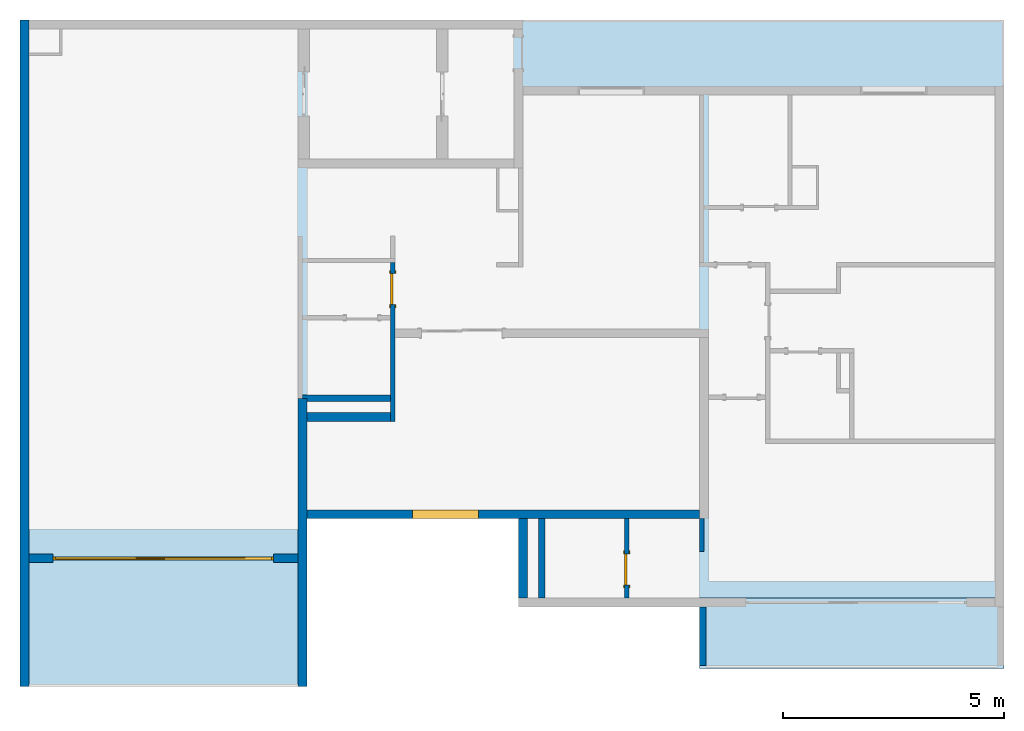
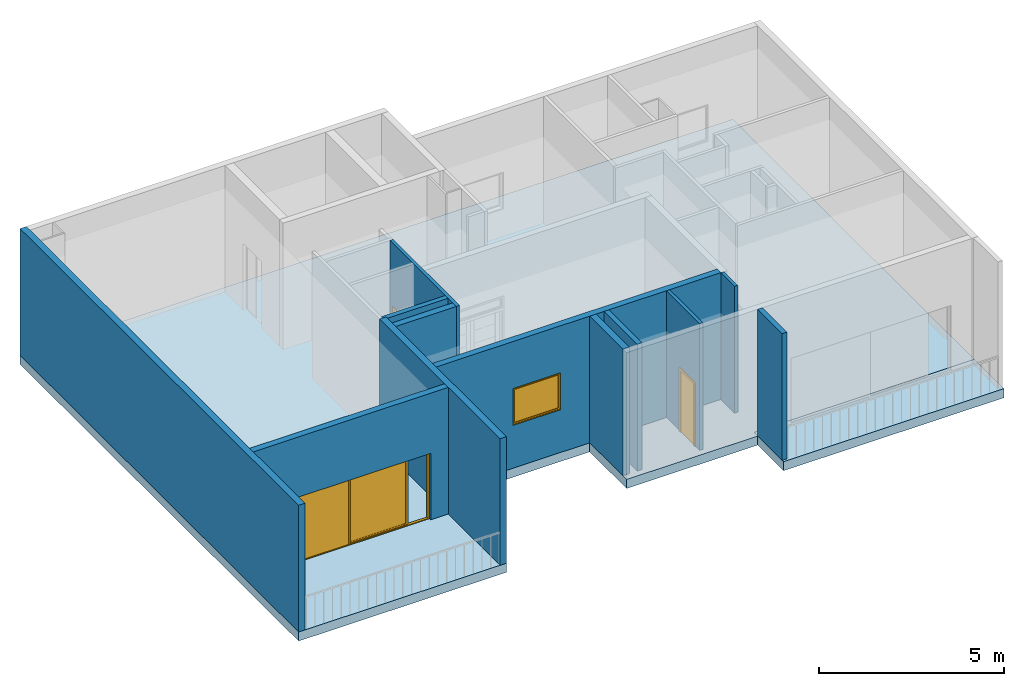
# One storey, part 1 of 7: 12 walls, 3 doors, 2 slabs, 1 window, 4 openings.
"""IFC2X3 building model written with IfcOpenShell, lengths in metres."""

from ifc_helpers import new_model, entity, si_unit, converted_unit, derived_unit, direction, frame, frame_2d, origin, origin_2d_with_axis, place, context, subcontext, project, spatial, polyline, rectangle, outline, extrude, faceted_brep, source, transform, mapped, material, material_list, layer, layer_set, layer_usage, type_object, type_shapes, element, fill, save


model = new_model("IFC2X3")

# Units and contexts
model_context = context("Model", 3, precision=1e-05, world=origin(), true_north=direction((6.123031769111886e-17, 1.0)))
body_context = subcontext(model_context, "Body", "Model", "MODEL_VIEW")
ifc_project = project(units=[si_unit("LENGTHUNIT", "METRE"), si_unit("AREAUNIT", "SQUARE_METRE"), si_unit("VOLUMEUNIT", "CUBIC_METRE"), converted_unit("PLANEANGLEUNIT", "DEGREE", entity("IfcRatioMeasure", 0.017453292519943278), si_unit("PLANEANGLEUNIT", "RADIAN"), dimensions=[0, 0, 0, 0, 0, 0, 0]), si_unit("MASSUNIT", "GRAM", prefix="KILO"), derived_unit("MASSDENSITYUNIT", [(si_unit("MASSUNIT", "GRAM", prefix="KILO"), 1), (si_unit("LENGTHUNIT", "METRE"), -3)]), derived_unit("MOMENTOFINERTIAUNIT", [(si_unit("LENGTHUNIT", "METRE"), 4)]), si_unit("TIMEUNIT", "SECOND"), si_unit("FREQUENCYUNIT", "HERTZ"), si_unit("THERMODYNAMICTEMPERATUREUNIT", "DEGREE_CELSIUS"), derived_unit("THERMALTRANSMITTANCEUNIT", [(si_unit("MASSUNIT", "GRAM", prefix="KILO"), 1), (si_unit("THERMODYNAMICTEMPERATUREUNIT", "KELVIN"), -1), (si_unit("TIMEUNIT", "SECOND"), -3)]), derived_unit("VOLUMETRICFLOWRATEUNIT", [(si_unit("LENGTHUNIT", "METRE"), 3), (si_unit("TIMEUNIT", "SECOND"), -1)]), derived_unit("MASSFLOWRATEUNIT", [(si_unit("MASSUNIT", "GRAM", prefix="KILO"), 1), (si_unit("TIMEUNIT", "SECOND"), -1)]), derived_unit("ROTATIONALFREQUENCYUNIT", [(si_unit("TIMEUNIT", "SECOND"), -1)]), si_unit("ELECTRICCURRENTUNIT", "AMPERE"), si_unit("ELECTRICVOLTAGEUNIT", "VOLT"), si_unit("POWERUNIT", "WATT"), si_unit("FORCEUNIT", "NEWTON", prefix="KILO"), si_unit("ILLUMINANCEUNIT", "LUX"), si_unit("LUMINOUSFLUXUNIT", "LUMEN"), si_unit("LUMINOUSINTENSITYUNIT", "CANDELA"), derived_unit("USERDEFINED", [(si_unit("MASSUNIT", "GRAM", prefix="KILO"), -1), (si_unit("LENGTHUNIT", "METRE"), -2), (si_unit("TIMEUNIT", "SECOND"), 3), (si_unit("LUMINOUSFLUXUNIT", "LUMEN"), 1)]), derived_unit("SOUNDPOWERUNIT", [(si_unit("MASSUNIT", "GRAM", prefix="KILO"), 1), (si_unit("LENGTHUNIT", "METRE"), 2), (si_unit("TIMEUNIT", "SECOND"), -3)]), derived_unit("SOUNDPRESSUREUNIT", [(si_unit("MASSUNIT", "GRAM", prefix="KILO"), 1), (si_unit("LENGTHUNIT", "METRE"), -1), (si_unit("TIMEUNIT", "SECOND"), -2)]), derived_unit("LINEARVELOCITYUNIT", [(si_unit("LENGTHUNIT", "METRE"), 1), (si_unit("TIMEUNIT", "SECOND"), -1)]), si_unit("PRESSUREUNIT", "PASCAL"), derived_unit("USERDEFINED", [(si_unit("LENGTHUNIT", "METRE"), -2), (si_unit("MASSUNIT", "GRAM", prefix="KILO"), 1), (si_unit("TIMEUNIT", "SECOND"), -2)]), derived_unit("LINEARFORCEUNIT", [(si_unit("MASSUNIT", "GRAM", prefix="KILO"), 1), (si_unit("LENGTHUNIT", "METRE"), 1), (si_unit("TIMEUNIT", "SECOND"), -2), (si_unit("LENGTHUNIT", "METRE"), -1)]), derived_unit("PLANARFORCEUNIT", [(si_unit("MASSUNIT", "GRAM", prefix="KILO"), 1), (si_unit("LENGTHUNIT", "METRE"), 1), (si_unit("TIMEUNIT", "SECOND"), -2), (si_unit("LENGTHUNIT", "METRE"), -2)])], contexts=[model_context])

# Site, building, storey
site_placement = place(None, origin())
site = spatial("IfcSite", under=ifc_project, at=site_placement, Name="Default", CompositionType="ELEMENT")
building_placement = place(site_placement, origin())
building = spatial("IfcBuilding", under=site, at=building_placement, CompositionType="ELEMENT")
storey_placement = place(building_placement, frame((0.0, 0.0, 5.639999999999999)))
storey = spatial("IfcBuildingStorey", under=building, at=storey_placement, Name="F1", CompositionType="ELEMENT", Elevation=5.639999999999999)

# Slabs
ifc_material_1 = material(Name="Default Floor")
ifc_layer_1 = layer(ifc_material_1, 0.29999999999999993)
ifc_layer_set_1 = layer_set([ifc_layer_1], Name="Floor:Generic 300mm")
ifc_layer_usage_1 = layer_usage(ifc_layer_set_1, "AXIS3", "POSITIVE", 0.0)
slab_type_1 = type_object("IfcSlabType", Name="Floor:Generic 300mm", PredefinedType="FLOOR", material=ifc_layer_set_1)
slab_1_placement = place(storey_placement, origin())
element("IfcSlab", 1, at=slab_1_placement, inside=storey, type_object=slab_type_1, material=ifc_layer_usage_1, Name="Floor:Generic 300mm", ObjectType="Floor:Generic 300mm", PredefinedType="FLOOR", context=body_context, shape_type="SweptSolid", body=[
    extrude(outline(polyline([(-5.174999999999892, -10.025000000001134), (9.924999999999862, -10.025000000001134), (9.924999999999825, 12.275000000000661), (-3.375000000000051, 12.275000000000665), (-3.375000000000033, 1.2750000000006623), (-1.3749999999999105, 1.275000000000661), (-1.3749999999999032, -3.525000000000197), (-5.174999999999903, -3.525000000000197), (-5.174999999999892, -10.025000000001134)])), frame((16.63268321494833, -3.922392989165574, 0.0), z_axis=(0.0, 0.0, -1.0), x_axis=(0.0, 1.0, 0.0)), (0.0, 0.0, 1.0), 0.30000000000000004),
])
ifc_layer_usage_2 = layer_usage(ifc_layer_set_1, "AXIS3", "POSITIVE", 0.0)
slab_type_2 = type_object("IfcSlabType", Name="Floor:Generic 300mm", PredefinedType="FLOOR", material=ifc_layer_set_1)
slab_2_placement = place(storey_placement, origin())
element("IfcSlab", 2, at=slab_2_placement, inside=storey, type_object=slab_type_2, material=ifc_layer_usage_2, Name="Floor:Generic 300mm", ObjectType="Floor:Generic 300mm", PredefinedType="FLOOR", context=body_context, shape_type="SweptSolid", body=[
    extrude(rectangle(XDim=1.6000000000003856, YDim=6.899999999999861, at=origin_2d_with_axis()), frame((25.457683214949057, -7.8973929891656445, 0.0), z_axis=(0.0, 0.0, -1.0), x_axis=(0.0, 1.0, 0.0)), (0.0, 0.0, 1.0), 0.30000000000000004),
])

# Walls
ifc_material_2 = material(Name="Masonry - Concrete Block")
ifc_layer_2 = layer(ifc_material_2, 0.2)
ifc_layer_set_2 = layer_set([ifc_layer_2], Name="Basic Wall:CW 200")
ifc_layer_usage_3 = layer_usage(ifc_layer_set_2, "AXIS2", "NEGATIVE", 0.1)
wall_type_1 = type_object("IfcWallType", Name="Basic Wall:CW 200", PredefinedType="STANDARD", material=ifc_layer_set_2)
wall_1_placement = place(storey_placement, frame((6.707683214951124, -9.097392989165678, 0.0), z_axis=(0.0, 0.0, 1.0), x_axis=(0.0, 1.0, 0.0)))
element("IfcWallStandardCase", 3, at=wall_1_placement, inside=storey, type_object=wall_type_1, material=ifc_layer_usage_3, Name="Basic Wall:CW 200", ObjectType="Basic Wall:CW 200", context=body_context, shape_type="SweptSolid", body=[
    extrude(rectangle(XDim=15.100000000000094, YDim=0.2, at=frame_2d((7.550000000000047, 1.5959455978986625e-16), x_axis=(-1.0, 0.0))), origin(), (0.0, 0.0, 1.0), 4.19),
])
ifc_layer_usage_4 = layer_usage(ifc_layer_set_2, "AXIS2", "NEGATIVE", 0.1)
wall_2_placement = place(storey_placement, frame((13.007683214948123, -9.097392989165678, 0.0), z_axis=(0.0, 0.0, 1.0), x_axis=(0.0, 1.0, 0.0)))
element("IfcWallStandardCase", 4, at=wall_2_placement, inside=storey, type_object=wall_type_1, material=ifc_layer_usage_4, Name="Basic Wall:CW 200", ObjectType="Basic Wall:CW 200", context=body_context, shape_type="SweptSolid", body=[
    extrude(rectangle(XDim=6.52500000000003, YDim=0.19999999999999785, at=frame_2d((3.262500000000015, -3.469446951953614e-17), x_axis=(-1.0, 0.0))), origin(), (0.0, 0.0, 1.0), 4.19),
])

# Wall, opening, door
ifc_layer_usage_5 = layer_usage(ifc_layer_set_2, "AXIS2", "NEGATIVE", 0.1)
wall_3_placement = place(storey_placement, frame((12.907683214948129, -6.197392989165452, 0.0), z_axis=(0.0, 0.0, 1.0), x_axis=(-1.0, 0.0, 0.0)))
wall_3 = element("IfcWallStandardCase", 5, at=wall_3_placement, inside=storey, type_object=wall_type_1, material=ifc_layer_usage_5, Name="Basic Wall:CW 200", ObjectType="Basic Wall:CW 200", context=body_context, shape_type="SweptSolid", body=[
    extrude(rectangle(XDim=6.099999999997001, YDim=0.2, at=frame_2d((3.0499999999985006, 0.0), x_axis=(1.0, 0.0))), origin(), (0.0, 0.0, 1.0), 4.19),
])
opening_1_placement = place(wall_3_placement, frame((5.549999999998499, 0.09999999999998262, 0.0)))
opening_1 = element("IfcOpeningElement", 6, at=opening_1_placement, cuts=wall_3, Name="Parametric_Operable_Sliding_Door_6386.0004:5M:1", ObjectType="Opening", context=body_context, shape_type="SweptSolid", body=[
    extrude(rectangle(XDim=2.199999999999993, YDim=4.999999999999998, at=frame_2d((1.0999999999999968, 2.499999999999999), x_axis=(1.0, 0.0))), frame((0.0, 0.0, 0.0), z_axis=(0.0, -1.0, 0.0), x_axis=(0.0, 0.0, 1.0)), (0.0, 0.0, 1.0), 0.2),
])
ifc_material_3 = material(Name="Window Glass")
ifc_material_4 = material(Name="Window Frame")
ifc_material_list_1 = material_list([ifc_material_3, ifc_material_4])
ifc_material_list_2 = material_list([ifc_material_3, ifc_material_4, ifc_material_3, ifc_material_4])
door_style_1 = type_object("IfcDoorStyle", Name="Parametric_Operable_Sliding_Door_6386.0004:5M", ConstructionType="NOTDEFINED", OperationType="NOTDEFINED", ParameterTakesPrecedence=False, Sizeable=False, material=ifc_material_list_2)
shared_shape_1 = source(origin(), body_context, "Body", "Brep", [
    faceted_brep([(0.7200000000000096, 0.0875000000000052, 2.080000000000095), (0.7200000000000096, 0.0875000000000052, 0.07000000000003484), (0.7200000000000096, 0.0775000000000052, 0.07000000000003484), (0.7200000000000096, 0.0775000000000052, 2.080000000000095), (3.0550000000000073, 0.0875000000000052, 2.080000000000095), (3.0550000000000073, 0.0875000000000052, 0.07000000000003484), (3.0550000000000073, 0.0775000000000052, 0.07000000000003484), (3.0550000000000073, 0.0775000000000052, 2.080000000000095)], [[[0, 1, 2, 3]], [[1, 0, 4, 5]], [[2, 1, 5, 6]], [[3, 2, 6, 7]], [[4, 7, 6, 5]], [[0, 3, 7, 4]]]),
    faceted_brep([(0.7200000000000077, 0.09499999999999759, 0.06999999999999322), (0.7200000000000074, 0.06999999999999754, 0.06999999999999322), (3.055000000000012, 0.06999999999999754, 0.06999999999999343), (3.055000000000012, 0.09499999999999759, 0.0699999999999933), (0.7200000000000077, 0.09499999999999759, 2.080000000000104), (0.7200000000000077, 0.06999999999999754, 2.080000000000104), (3.05500000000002, 0.09499999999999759, 2.080000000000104), (3.125000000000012, 0.09499999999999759, 2.150000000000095), (3.125000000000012, 0.09499999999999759, 0.02500000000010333), (0.6500000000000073, 0.09499999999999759, 0.0250000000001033), (0.6500000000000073, 0.09499999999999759, 2.1499999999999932), (3.055000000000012, 0.06999999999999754, 2.080000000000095), (0.6500000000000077, 0.06999999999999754, 2.1500000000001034), (0.6500000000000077, 0.06999999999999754, 0.02500000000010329), (3.125000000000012, 0.06999999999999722, 0.02500000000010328), (3.125000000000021, 0.06999999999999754, 2.1499999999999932), (0.04999999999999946, 0.06500000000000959, 0.02500000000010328), (4.949999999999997, 0.06499999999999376, 0.025000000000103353), (4.949999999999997, 0.13499999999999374, 0.025000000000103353), (0.05, 0.13500000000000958, 0.02500000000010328), (5.0, 0.0649999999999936, 0.0), (5.0, 0.0649999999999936, 2.199999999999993), (0.0, 0.06500000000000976, 2.199999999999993), (0.0, 0.06500000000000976, 0.0), (0.05, 0.06500000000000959, 2.1499999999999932), (4.949999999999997, 0.06499999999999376, 2.1499999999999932), (0.0, 0.13500000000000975, 0.0), (5.0, 0.1349999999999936, 0.0), (0.0, 0.13500000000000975, 2.199999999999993), (5.0, 0.1349999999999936, 2.199999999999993), (0.05, 0.13500000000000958, 2.1499999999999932), (4.949999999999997, 0.13499999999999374, 2.1499999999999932)], [[[0, 1, 2, 3]], [[1, 0, 4, 5]], [[4, 0, 3, 6], [7, 8, 9, 10]], [[1, 5, 11, 2], [12, 13, 14, 15]], [[13, 12, 10, 9]], [[13, 9, 8, 14], [16, 17, 18, 19]], [[11, 6, 3, 2]], [[15, 14, 8, 7]], [[20, 21, 22, 23], [24, 25, 17, 16]], [[20, 23, 26, 27]], [[23, 22, 28, 26]], [[27, 26, 28, 29], [30, 19, 18, 31]], [[21, 20, 27, 29]], [[17, 25, 31, 18]], [[24, 16, 19, 30]], [[5, 4, 6, 11]], [[22, 21, 29, 28]], [[10, 12, 15, 7], [25, 24, 30, 31]]], outer=[[True], [True], [False, True], [False, True], [True], [False, True], [True], [True], [True, False], [True], [True], [True, False], [True], [True], [True], [True], [True], [False, True]]),
    faceted_brep([(2.5249999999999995, 0.11499999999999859, 2.1499999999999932), (2.5249999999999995, 0.11499999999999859, 0.02500000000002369), (4.949999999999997, 0.11499999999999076, 0.02500000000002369), (4.949999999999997, 0.11499999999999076, 2.1499999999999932), (2.5249999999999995, 0.12099999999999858, 2.1499999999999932), (2.5249999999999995, 0.12099999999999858, 0.02500000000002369), (4.949999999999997, 0.12099999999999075, 0.02500000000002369), (4.949999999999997, 0.12099999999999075, 2.1499999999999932)], [[[0, 1, 2, 3]], [[1, 0, 4, 5]], [[2, 1, 5, 6]], [[3, 2, 6, 7]], [[4, 7, 6, 5]], [[0, 3, 7, 4]]]),
    faceted_brep([(2.474999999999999, 0.09999999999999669, 2.1499999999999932), (2.474999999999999, 0.09999999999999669, 0.025000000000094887), (2.5249999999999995, 0.09999999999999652, 0.02500000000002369), (2.5249999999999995, 0.09999999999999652, 2.1499999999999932), (2.474999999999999, 0.1300000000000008, 2.1499999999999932), (2.474999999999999, 0.1300000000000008, 0.025000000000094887), (2.5249999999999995, 0.13000000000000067, 0.02500000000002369), (2.5249999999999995, 0.13000000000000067, 2.1499999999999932)], [[[0, 1, 2, 3]], [[1, 0, 4, 5]], [[2, 1, 5, 6]], [[3, 2, 6, 7]], [[4, 7, 6, 5]], [[0, 3, 7, 4]]]),
])
type_shapes(door_style_1, [shared_shape_1])
door_1_placement = place(opening_1_placement, frame((-5.0, -0.1999999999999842, 0.0)))
door_1 = element("IfcDoor", 7, at=door_1_placement, inside=storey, type_object=door_style_1, material=ifc_material_list_1, Name="Parametric_Operable_Sliding_Door_6386.0004:5M", ObjectType="Parametric_Operable_Sliding_Door_6386.0004:5M", OverallHeight=2.1999999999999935, OverallWidth=4.999999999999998, context=body_context, shape_type="MappedRepresentation", body=[
    mapped(shared_shape_1, transform((0.0, 0.0, 0.0), scale=1.0)),
])
fill(opening_1, door_1)

# Wall
ifc_layer_usage_6 = layer_usage(ifc_layer_set_2, "AXIS2", "NEGATIVE", 0.1)
wall_4_placement = place(storey_placement, frame((13.107683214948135, -2.997392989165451, 0.0)))
element("IfcWallStandardCase", 8, at=wall_4_placement, inside=storey, type_object=wall_type_1, material=ifc_layer_usage_6, Name="Basic Wall:CW 200", ObjectType="Basic Wall:CW 200", context=body_context, shape_type="SweptSolid", body=[
    extrude(rectangle(XDim=1.900000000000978, YDim=0.2, at=frame_2d((0.950000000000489, 1.1102230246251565e-16), x_axis=(-1.0, 0.0))), origin(), (0.0, 0.0, 1.0), 4.19),
])

# Wall, opening, window
ifc_layer_usage_7 = layer_usage(ifc_layer_set_2, "AXIS2", "NEGATIVE", 0.1)
wall_5_placement = place(storey_placement, frame((22.00768321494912, -5.20029257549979, 0.0), z_axis=(0.0, 0.0, 1.0), x_axis=(-1.0, 0.0, 0.0)))
wall_5 = element("IfcWallStandardCase", 9, at=wall_5_placement, inside=storey, type_object=wall_type_1, material=ifc_layer_usage_7, Name="Basic Wall:CW 200", ObjectType="Basic Wall:CW 200", context=body_context, shape_type="SweptSolid", body=[
    extrude(rectangle(XDim=8.900000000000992, YDim=0.2, at=frame_2d((4.450000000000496, -4.163336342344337e-17), x_axis=(-1.0, 0.0))), origin(), (0.0, 0.0, 1.0), 4.19),
])
opening_2_placement = place(wall_5_placement, frame((5.007500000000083, -0.10000000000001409, 1.4150000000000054)))
opening_2 = element("IfcOpeningElement", 10, at=opening_2_placement, cuts=wall_5, Name="M_Fixed:0915 x 1220mm:1", ObjectType="Opening", context=body_context, shape_type="SweptSolid", body=[
    extrude(rectangle(XDim=1.2199999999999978, YDim=1.4999999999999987, at=frame_2d((0.6099999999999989, 0.7499999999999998), x_axis=(1.0, 0.0))), frame((0.0, 0.0, 0.0), z_axis=(0.0, 1.0, 0.0), x_axis=(0.0, 0.0, 1.0)), (0.0, 0.0, 1.0), 0.2),
])
ifc_material_5 = material(Name="Glass")
ifc_material_6 = material(Name="Sash")
ifc_material_list_3 = material_list([ifc_material_5, ifc_material_6, ifc_material_6, ifc_material_6])
ifc_material_list_4 = material_list([ifc_material_5, ifc_material_6, ifc_material_6, ifc_material_6])
window_style = type_object("IfcWindowStyle", Name="M_Fixed:0915 x 1220mm", ConstructionType="NOTDEFINED", OperationType="NOTDEFINED", ParameterTakesPrecedence=False, Sizeable=False, material=ifc_material_list_4)
shared_shape_2 = source(origin(), body_context, "Body", "SweptSolid", [
    extrude(rectangle(XDim=0.011999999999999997, YDim=1.3739999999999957, at=frame_2d((8.239936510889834e-18, 0.0), x_axis=(1.0, 0.0))), frame((0.7500000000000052, 0.15899999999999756, 0.06299999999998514), z_axis=(0.0, 0.0, 1.0), x_axis=(0.0, -1.0, 0.0)), (0.0, 0.0, 1.0), 1.0940000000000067),
    extrude(outline(polyline([(-0.7309999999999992, -0.5910000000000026), (0.7309999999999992, -0.5910000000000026), (0.7309999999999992, 0.5910000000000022), (-0.7309999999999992, 0.5910000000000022), (-0.7309999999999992, -0.5910000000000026)]), holes=[polyline([(-0.686999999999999, -0.5470000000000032), (-0.686999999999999, 0.5470000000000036), (0.6869999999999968, 0.5470000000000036), (0.6869999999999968, -0.5470000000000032), (-0.686999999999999, -0.5470000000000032)])]), frame((0.7500000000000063, 0.13699999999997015, 0.6099999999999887), z_axis=(0.0, 1.0, 0.0), x_axis=(1.0, 0.0, 0.0)), (0.0, 0.0, 1.0), 0.04400000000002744),
    extrude(outline(polyline([(-0.749999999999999, -0.609999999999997), (0.749999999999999, -0.609999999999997), (0.749999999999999, 0.609999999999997), (-0.749999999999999, 0.609999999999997), (-0.749999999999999, -0.609999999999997)]), holes=[polyline([(-0.7310000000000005, -0.5909999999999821), (-0.7310000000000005, 0.5910000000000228), (0.7309999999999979, 0.5910000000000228), (0.7309999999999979, -0.5909999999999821), (-0.7310000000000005, -0.5909999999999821)])]), frame((0.7500000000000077, 0.13699999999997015, 0.6100000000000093), z_axis=(0.0, 1.0, 0.0), x_axis=(1.0, 0.0, 0.0)), (0.0, 0.0, 1.0), 0.06300000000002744),
    extrude(outline(polyline([(-0.7499999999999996, -0.6099999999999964), (0.7499999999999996, -0.6099999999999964), (0.7499999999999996, 0.6099999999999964), (-0.7499999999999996, 0.6099999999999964), (-0.7499999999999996, -0.6099999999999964)]), holes=[polyline([(-0.7179999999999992, -0.5779999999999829), (-0.7179999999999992, 0.5780000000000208), (0.7179999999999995, 0.5780000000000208), (0.7179999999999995, -0.5779999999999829), (-0.7179999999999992, -0.5779999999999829)])]), frame((0.750000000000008, 0.0, 0.6100000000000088), z_axis=(0.0, 1.0, 0.0), x_axis=(1.0, 0.0, 0.0)), (0.0, 0.0, 1.0), 0.1369999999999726),
])
type_shapes(window_style, [shared_shape_2])
window_placement = place(opening_2_placement, origin())
window = element("IfcWindow", 11, at=window_placement, inside=storey, type_object=window_style, material=ifc_material_list_3, Name="M_Fixed:0915 x 1220mm", ObjectType="M_Fixed:0915 x 1220mm", OverallHeight=1.2199999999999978, OverallWidth=1.4999999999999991, context=body_context, shape_type="MappedRepresentation", body=[
    mapped(shared_shape_2, transform((0.0, 0.0, 0.0), scale=1.0)),
])
fill(opening_2, window)

# Wall
ifc_layer_usage_8 = layer_usage(ifc_layer_set_2, "AXIS2", "NEGATIVE", 0.1)
wall_6_placement = place(storey_placement, frame((18.007683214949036, -7.097392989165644, 0.0), z_axis=(0.0, 0.0, 1.0), x_axis=(0.0, 1.0, 0.0)))
element("IfcWallStandardCase", 12, at=wall_6_placement, inside=storey, type_object=wall_type_1, material=ifc_layer_usage_8, Name="Basic Wall:CW 200", ObjectType="Basic Wall:CW 200", context=body_context, shape_type="SweptSolid", body=[
    extrude(rectangle(XDim=1.7971004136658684, YDim=0.19999999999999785, at=frame_2d((0.8985502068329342, -5.551115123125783e-17), x_axis=(-1.0, 0.0))), origin(), (0.0, 0.0, 1.0), 4.19),
])

# Wall, opening, door
ifc_layer_3 = layer(ifc_material_2, 0.1)
ifc_layer_set_3 = layer_set([ifc_layer_3], Name="Basic Wall:CW 100")
ifc_layer_usage_9 = layer_usage(ifc_layer_set_3, "AXIS2", "NEGATIVE", 0.05)
wall_type_2 = type_object("IfcWallType", Name="Basic Wall:CW 100", PredefinedType="STANDARD", material=ifc_layer_set_3)
wall_7_placement = place(storey_placement, frame((15.057683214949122, 0.5026070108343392, 0.0), z_axis=(0.0, 0.0, 1.0), x_axis=(0.0, -1.0, 0.0)))
wall_7 = element("IfcWallStandardCase", 13, at=wall_7_placement, inside=storey, type_object=wall_type_2, material=ifc_layer_usage_9, Name="Basic Wall:CW 100", ObjectType="Basic Wall:CW 100", context=body_context, shape_type="SweptSolid", body=[
    extrude(rectangle(XDim=3.5999999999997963, YDim=0.10000000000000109, at=frame_2d((1.7999999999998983, -8.916478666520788e-16), x_axis=(1.0, 0.0))), origin(), (0.0, 0.0, 1.0), 4.19),
])
opening_3_placement = place(wall_7_placement, frame((0.9500000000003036, 0.04999999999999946, 0.0)))
opening_3 = element("IfcOpeningElement", 14, at=opening_3_placement, cuts=wall_7, Name="M_Single-Flush:0762 x 2032mm:1", ObjectType="Opening", context=body_context, shape_type="SweptSolid", body=[
    extrude(rectangle(XDim=0.7, YDim=2.0319999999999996, at=frame_2d((1.0159999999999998, 0.34999999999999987), x_axis=(0.0, 1.0))), frame((0.0, 0.0, 0.0), z_axis=(0.0, -1.0, 0.0), x_axis=(0.0, 0.0, 1.0)), (0.0, 0.0, 1.0), 0.1),
])
ifc_material_7 = material(Name="Door - Frame")
ifc_material_8 = material(Name="Door - Panel")
ifc_material_list_5 = material_list([ifc_material_7, ifc_material_8])
ifc_material_list_6 = material_list([ifc_material_7, ifc_material_7, ifc_material_8])
door_style_2 = type_object("IfcDoorStyle", Name="M_Single-Flush:0762 x 2032mm", ConstructionType="NOTDEFINED", OperationType="NOTDEFINED", ParameterTakesPrecedence=False, Sizeable=False, material=ifc_material_list_6)
shared_shape_3 = source(origin(), body_context, "Body", "SweptSolid", [
    extrude(outline(polyline([(-0.426, -1.0729999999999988), (0.4259999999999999, -1.0729999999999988), (0.4259999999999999, 1.0350000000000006), (0.3499999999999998, 1.0350000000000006), (0.3499999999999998, -0.9970000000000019), (-0.3499999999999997, -0.9970000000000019), (-0.3499999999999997, 1.0350000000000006), (-0.426, 1.0350000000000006), (-0.426, -1.0729999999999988)])), frame((0.3500000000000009, 0.10000000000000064, 1.0350000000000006), z_axis=(0.0, 1.0, 0.0), x_axis=(1.0, 0.0, 0.0)), (0.0, 0.0, 1.0), 0.024999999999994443),
    extrude(outline(polyline([(-1.0729999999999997, -0.42599999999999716), (1.0349999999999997, -0.42599999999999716), (1.0349999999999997, -0.3500000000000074), (-0.9969999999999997, -0.3500000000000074), (-0.9969999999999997, 0.35000000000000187), (1.0349999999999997, 0.35000000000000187), (1.0349999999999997, 0.4260000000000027), (-1.0729999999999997, 0.4260000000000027), (-1.0729999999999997, -0.42599999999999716)])), frame((0.35000000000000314, -0.025000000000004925, 1.0349999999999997), z_axis=(0.0, 1.0, 0.0), x_axis=(0.0, 0.0, -1.0)), (0.0, 0.0, 1.0), 0.025000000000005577),
    extrude(rectangle(XDim=0.051000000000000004, YDim=0.6999999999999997, at=origin_2d_with_axis()), frame((0.3500000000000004, 0.07450000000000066, 0.0), z_axis=(0.0, 0.0, 1.0), x_axis=(0.0, 1.0, 0.0)), (0.0, 0.0, 1.0), 2.0319999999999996),
])
type_shapes(door_style_2, [shared_shape_3])
door_2_placement = place(opening_3_placement, frame((0.0, 0.0, 0.0), z_axis=(0.0, 0.0, 1.0), x_axis=(-1.0, 0.0, 0.0)))
door_2 = element("IfcDoor", 15, at=door_2_placement, inside=storey, type_object=door_style_2, material=ifc_material_list_5, Name="M_Single-Flush:0762 x 2032mm", ObjectType="M_Single-Flush:0762 x 2032mm", OverallHeight=2.0319999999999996, OverallWidth=0.7, context=body_context, shape_type="MappedRepresentation", body=[
    mapped(shared_shape_3, transform((0.0, 0.0, 0.0), scale=1.0)),
])
fill(opening_3, door_2)

ifc_layer_usage_10 = layer_usage(ifc_layer_set_3, "AXIS2", "NEGATIVE", 0.05)
wall_8_placement = place(storey_placement, frame((20.357683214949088, -5.3002925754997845, 0.0), z_axis=(0.0, 0.0, 1.0), x_axis=(0.0, -1.0, 0.0)))
wall_8 = element("IfcWallStandardCase", 16, at=wall_8_placement, inside=storey, type_object=wall_type_2, material=ifc_layer_usage_10, Name="Basic Wall:CW 100", ObjectType="Basic Wall:CW 100", context=body_context, shape_type="SweptSolid", body=[
    extrude(rectangle(XDim=1.7971004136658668, YDim=0.09999999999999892, at=frame_2d((0.8985502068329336, 2.1649348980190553e-15), x_axis=(1.0, 0.0))), origin(), (0.0, 0.0, 1.0), 4.19),
])
opening_4_placement = place(wall_8_placement, frame((1.497100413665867, 0.04999999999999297, 0.0)))
opening_4 = element("IfcOpeningElement", 17, at=opening_4_placement, cuts=wall_8, Name="M_Single-Flush:0762 x 2032mm:1", ObjectType="Opening", context=body_context, shape_type="SweptSolid", body=[
    extrude(rectangle(XDim=0.6999999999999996, YDim=2.0319999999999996, at=frame_2d((1.0159999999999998, 0.3500000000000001), x_axis=(0.0, 1.0))), frame((0.0, 0.0, 0.0), z_axis=(0.0, -1.0, 0.0), x_axis=(0.0, 0.0, 1.0)), (0.0, 0.0, 1.0), 0.1),
])
ifc_material_list_7 = material_list([ifc_material_7, ifc_material_8])
door_3_placement = place(opening_4_placement, frame((0.0, 0.0, 0.0), z_axis=(0.0, 0.0, 1.0), x_axis=(-1.0, 0.0, 0.0)))
door_3 = element("IfcDoor", 18, at=door_3_placement, inside=storey, type_object=door_style_2, material=ifc_material_list_7, Name="M_Single-Flush:0762 x 2032mm", ObjectType="M_Single-Flush:0762 x 2032mm", OverallHeight=2.0319999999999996, OverallWidth=0.7000000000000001, context=body_context, shape_type="MappedRepresentation", body=[
    mapped(shared_shape_3, transform((0.0, 0.0, 0.0), scale=1.0)),
])
fill(opening_4, door_3)

# Walls
ifc_layer_usage_11 = layer_usage(ifc_layer_set_3, "AXIS2", "NEGATIVE", 0.05)
wall_9_placement = place(storey_placement, frame((22.05768321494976, -5.30029257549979, 0.0), z_axis=(0.0, 0.0, 1.0), x_axis=(0.0, -1.0, 0.0)))
element("IfcWallStandardCase", 19, at=wall_9_placement, inside=storey, type_object=wall_type_2, material=ifc_layer_usage_11, Name="Basic Wall:CW 100", ObjectType="Basic Wall:CW 100", context=body_context, shape_type="SweptSolid", body=[
    extrude(rectangle(XDim=0.7471004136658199, YDim=0.10000000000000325, at=frame_2d((0.37355020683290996, 0.0), x_axis=(-1.0, 0.0))), origin(), (0.0, 0.0, 1.0), 4.19),
])
ifc_layer_4 = layer(ifc_material_2, 0.14999999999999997)
ifc_layer_set_4 = layer_set([ifc_layer_4], Name="Basic Wall:CW 150")
ifc_layer_usage_12 = layer_usage(ifc_layer_set_4, "AXIS2", "NEGATIVE", 0.07499999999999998)
wall_type_3 = type_object("IfcWallType", Name="Basic Wall:CW 150", PredefinedType="STANDARD", material=ifc_layer_set_4)
wall_10_placement = place(storey_placement, frame((15.007683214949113, -2.5723929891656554, 0.0), z_axis=(0.0, 0.0, 1.0), x_axis=(-1.0, 0.0, 0.0)))
element("IfcWallStandardCase", 20, at=wall_10_placement, inside=storey, type_object=wall_type_3, material=ifc_layer_usage_12, Name="Basic Wall:CW 150", ObjectType="Basic Wall:CW 150", context=body_context, shape_type="SweptSolid", body=[
    extrude(outline(polyline([(-0.07500000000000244, -0.7000000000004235), (0.0, -0.7000000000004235), (0.0, -0.6000000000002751), (0.07499999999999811, -0.6000000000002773), (0.07500000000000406, 1.300000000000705), (-0.07499999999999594, 1.300000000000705), (-0.07500000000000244, -0.7000000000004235)])), frame((1.3000000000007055, 0.0, 0.0), z_axis=(0.0, 0.0, 1.0), x_axis=(0.0, 1.0, 0.0)), (0.0, 0.0, 1.0), 4.1899999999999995),
])
ifc_layer_usage_13 = layer_usage(ifc_layer_set_4, "AXIS2", "NEGATIVE", 0.07499999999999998)
wall_11_placement = place(storey_placement, frame((18.432683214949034, -5.300292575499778, 0.0), z_axis=(0.0, 0.0, 1.0), x_axis=(0.0, -1.0, 0.0)))
element("IfcWallStandardCase", 21, at=wall_11_placement, inside=storey, type_object=wall_type_3, material=ifc_layer_usage_13, Name="Basic Wall:CW 150", ObjectType="Basic Wall:CW 150", context=body_context, shape_type="SweptSolid", body=[
    extrude(rectangle(XDim=1.797100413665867, YDim=0.15000000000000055, at=frame_2d((0.8985502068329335, -5.551115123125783e-17), x_axis=(-1.0, 0.0))), origin(), (0.0, 0.0, 1.0), 4.19),
])
ifc_layer_usage_14 = layer_usage(ifc_layer_set_4, "AXIS2", "NEGATIVE", 0.07499999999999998)
wall_12_placement = place(storey_placement, frame((22.082683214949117, -7.297392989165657, 0.0), z_axis=(0.0, 0.0, 1.0), x_axis=(0.0, -1.0, 0.0)))
element("IfcWallStandardCase", 22, at=wall_12_placement, inside=storey, type_object=wall_type_3, material=ifc_layer_usage_14, Name="Basic Wall:CW 150", ObjectType="Basic Wall:CW 150", context=body_context, shape_type="SweptSolid", body=[
    extrude(rectangle(XDim=1.3250000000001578, YDim=0.15000000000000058, at=frame_2d((0.6625000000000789, -1.1102230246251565e-16), x_axis=(-1.0, 0.0))), origin(), (0.0, 0.0, 1.0), 4.19),
])

save(model, "model.ifc")
